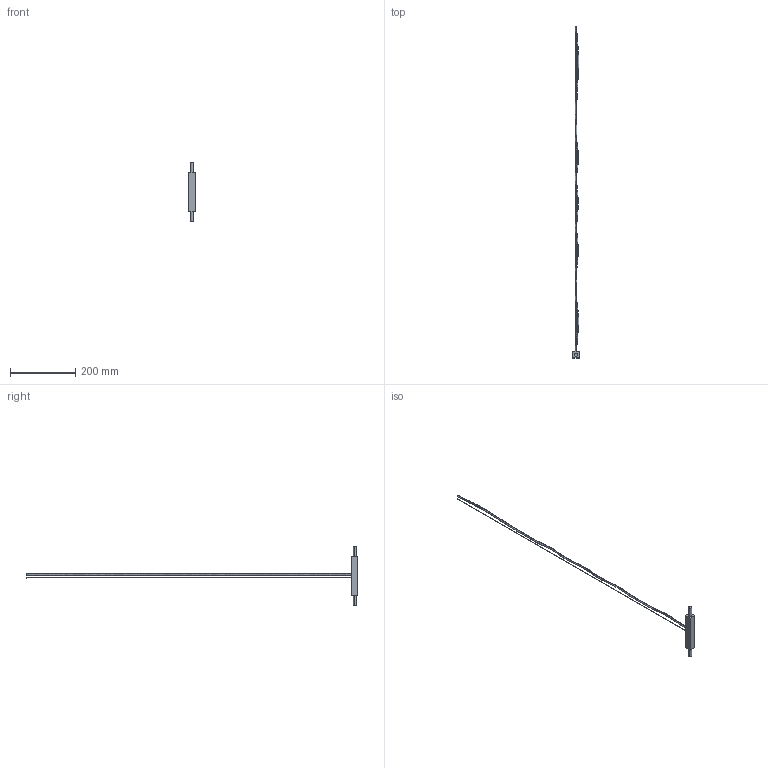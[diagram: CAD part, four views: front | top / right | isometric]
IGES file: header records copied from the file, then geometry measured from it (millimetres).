
Start section: SolidWorks IGES file using analytic representation for surfaces
Global section: file name: C:\Users\tungari.NEMOLIGHTING\Desktop\3D\SYSTEMS\3D_LINESCAPES_SYSTEMS\3D_LINESCAPES_CENTRAL_SUPPLY\3D_LINESCAPES_CENTRAL_SUPPLY.IGS; native system: SolidWorks 2016; preprocessor: SolidWorks 2016; author: tungari; date: 180409.124601; units: millimetre
Bounding box: 20 x 1015 x 182 mm (x, y, z)
Surface area: 31489.3 mm2 (no closed solid volume)
Topology: 0 solids, 0 shells, 22 faces, 280 edges, 280 vertices
Faces by surface type: bspline 16, revolution 6
